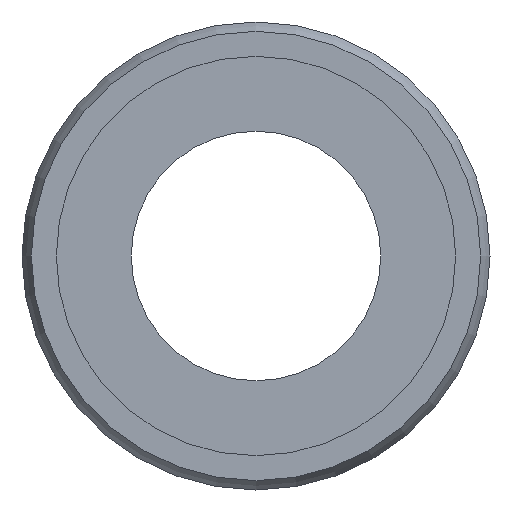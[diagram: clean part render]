
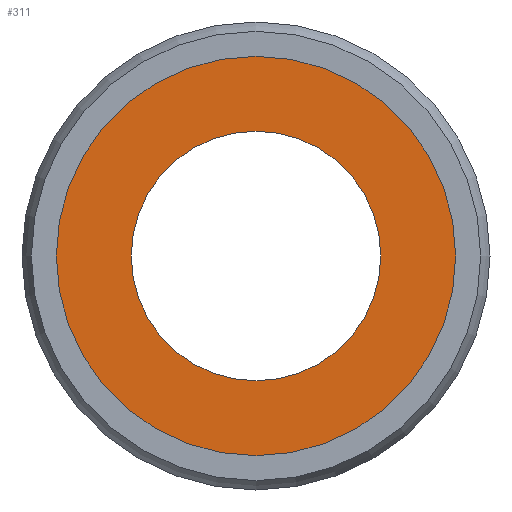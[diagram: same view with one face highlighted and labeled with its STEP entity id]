
A CAD part, left-side view. The second image highlights one B-rep face of the part: STEP entity #311.
In plain terms, the highlighted planar face has unit normal (-1, 0, 0).
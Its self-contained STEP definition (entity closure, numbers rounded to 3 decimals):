
#277=CARTESIAN_POINT('',(0.1,0.0,6.4));
#278=VERTEX_POINT('',#277);
#279=CARTESIAN_POINT('',(0.1,0.0,0.));
#280=DIRECTION('',(-1.0,0.0,0.0));
#281=DIRECTION('',(0.0,0.0,1.0));
#282=AXIS2_PLACEMENT_3D('',#279,#280,#281);
#283=CIRCLE('',#282,6.4);
#284=EDGE_CURVE('',#278,#278,#283,.T.);
#292=CARTESIAN_POINT('',(0.1,0.0,5.2));
#293=DIRECTION('',(-1.0,0.0,0.0));
#294=DIRECTION('',(0.0,0.0,1.0));
#295=AXIS2_PLACEMENT_3D('',#292,#293,#294);
#296=PLANE('',#295);
#297=ORIENTED_EDGE('',*,*,#284,.T.);
#298=EDGE_LOOP('',(#297));
#299=FACE_OUTER_BOUND('',#298,.T.);
#300=CARTESIAN_POINT('',(0.1,0.0,4.));
#301=VERTEX_POINT('',#300);
#302=CARTESIAN_POINT('',(0.1,0.0,0.));
#303=DIRECTION('',(-1.0,0.0,0.0));
#304=DIRECTION('',(0.0,0.0,1.0));
#305=AXIS2_PLACEMENT_3D('',#302,#303,#304);
#306=CIRCLE('',#305,4.0);
#307=EDGE_CURVE('',#301,#301,#306,.T.);
#308=ORIENTED_EDGE('',*,*,#307,.F.);
#309=EDGE_LOOP('',(#308));
#310=FACE_BOUND('',#309,.T.);
#311=ADVANCED_FACE('',(#299,#310),#296,.T.);
